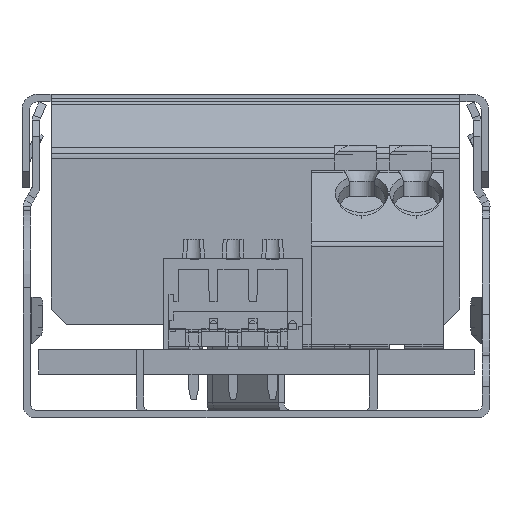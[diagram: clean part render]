
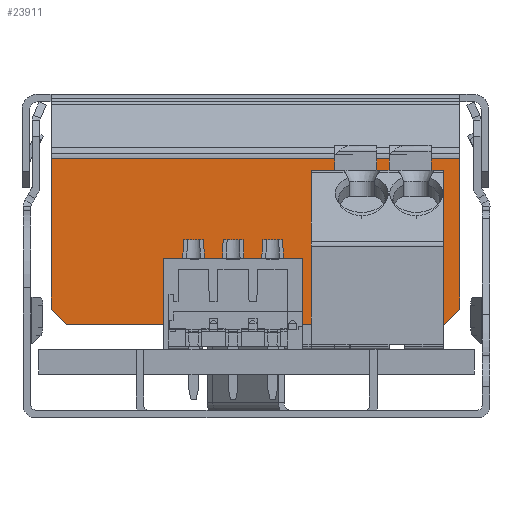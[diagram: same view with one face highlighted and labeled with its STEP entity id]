
A CAD part, front view. The second image highlights one B-rep face of the part: STEP entity #23911.
In plain terms, the highlighted planar face has unit normal (0, -1, 0).
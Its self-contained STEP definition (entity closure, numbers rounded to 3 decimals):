
#1740 = CARTESIAN_POINT ( 'NONE',  ( 35.528, -113.207, 7.193 ) ) ;
#2328 = CARTESIAN_POINT ( 'NONE',  ( 9.257, -113.207, 11.518 ) ) ;
#2524 = EDGE_CURVE ( 'NONE', #13411, #49808, #14817, .T. ) ;
#3145 = EDGE_LOOP ( 'NONE', ( #37443, #36928, #3883, #27602, #39857, #33474 ) ) ;
#3814 = CARTESIAN_POINT ( 'NONE',  ( 34.528, -113.207, 6.193 ) ) ;
#3883 = ORIENTED_EDGE ( 'NONE', *, *, #2524, .F. ) ;
#4582 = LINE ( 'NONE', #20230, #36798 ) ;
#5328 = CARTESIAN_POINT ( 'NONE',  ( 36.054, -113.207, 17.147 ) ) ;
#10618 = LINE ( 'NONE', #26266, #18514 ) ;
#12818 = DIRECTION ( 'NONE',  ( -1., 0., 0. ) ) ;
#13333 = EDGE_CURVE ( 'NONE', #19450, #13411, #31241, .T. ) ;
#13411 = VERTEX_POINT ( 'NONE', #1740 ) ;
#14016 = DIRECTION ( 'NONE',  ( 0., 0., -1. ) ) ;
#14817 = LINE ( 'NONE', #19186, #41338 ) ;
#17108 = FACE_OUTER_BOUND ( 'NONE', #3145, .T. ) ;
#17769 = EDGE_CURVE ( 'NONE', #49808, #33099, #4582, .T. ) ;
#17962 = DIRECTION ( 'NONE',  ( 0., 0., 1. ) ) ;
#18514 = VECTOR ( 'NONE', #41885, 1000. ) ;
#19186 = CARTESIAN_POINT ( 'NONE',  ( 34.313, -113.207, 5.978 ) ) ;
#19450 = VERTEX_POINT ( 'NONE', #48361 ) ;
#20230 = CARTESIAN_POINT ( 'NONE',  ( 22.393, -113.207, 6.193 ) ) ;
#20752 = VERTEX_POINT ( 'NONE', #22715 ) ;
#20828 = VECTOR ( 'NONE', #12818, 1000. ) ;
#21709 = AXIS2_PLACEMENT_3D ( 'NONE', #5328, #49138, #14016 ) ;
#22715 = CARTESIAN_POINT ( 'NONE',  ( 9.257, -113.207, 7.193 ) ) ;
#23400 = EDGE_CURVE ( 'NONE', #19450, #48446, #47953, .T. ) ;
#23911 = ADVANCED_FACE ( 'NONE', ( #17108 ), #48893, .T. ) ;
#25469 = VECTOR ( 'NONE', #17962, 1000. ) ;
#25555 = EDGE_CURVE ( 'NONE', #33099, #20752, #10618, .T. ) ;
#26266 = CARTESIAN_POINT ( 'NONE',  ( 9.042, -113.207, 7.408 ) ) ;
#27602 = ORIENTED_EDGE ( 'NONE', *, *, #13333, .F. ) ;
#31241 = LINE ( 'NONE', #39939, #46468 ) ;
#32078 = EDGE_CURVE ( 'NONE', #20752, #48446, #37447, .T. ) ;
#33099 = VERTEX_POINT ( 'NONE', #41345 ) ;
#33334 = CARTESIAN_POINT ( 'NONE',  ( 9.257, -113.207, 16.843 ) ) ;
#33474 = ORIENTED_EDGE ( 'NONE', *, *, #32078, .F. ) ;
#35862 = DIRECTION ( 'NONE',  ( -1., 0., 0. ) ) ;
#36403 = CARTESIAN_POINT ( 'NONE',  ( 22.393, -113.207, 16.843 ) ) ;
#36798 = VECTOR ( 'NONE', #35862, 1000. ) ;
#36928 = ORIENTED_EDGE ( 'NONE', *, *, #17769, .F. ) ;
#37443 = ORIENTED_EDGE ( 'NONE', *, *, #25555, .F. ) ;
#37447 = LINE ( 'NONE', #2328, #25469 ) ;
#39857 = ORIENTED_EDGE ( 'NONE', *, *, #23400, .T. ) ;
#39939 = CARTESIAN_POINT ( 'NONE',  ( 35.528, -113.207, 11.518 ) ) ;
#41338 = VECTOR ( 'NONE', #42244, 1000. ) ;
#41345 = CARTESIAN_POINT ( 'NONE',  ( 10.257, -113.207, 6.193 ) ) ;
#41885 = DIRECTION ( 'NONE',  ( -0.707, 0., 0.707 ) ) ;
#42244 = DIRECTION ( 'NONE',  ( -0.707, 0., -0.707 ) ) ;
#43811 = DIRECTION ( 'NONE',  ( 0., 0., -1. ) ) ;
#46468 = VECTOR ( 'NONE', #43811, 1000. ) ;
#47953 = LINE ( 'NONE', #36403, #20828 ) ;
#48361 = CARTESIAN_POINT ( 'NONE',  ( 35.528, -113.207, 16.843 ) ) ;
#48446 = VERTEX_POINT ( 'NONE', #33334 ) ;
#48893 = PLANE ( 'NONE',  #21709 ) ;
#49138 = DIRECTION ( 'NONE',  ( 0., -1., 0. ) ) ;
#49808 = VERTEX_POINT ( 'NONE', #3814 ) ;
